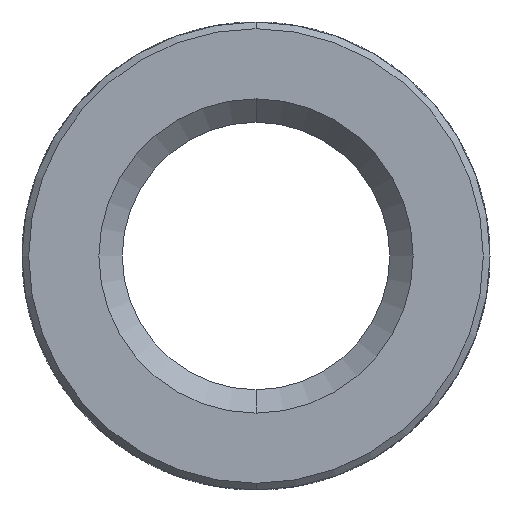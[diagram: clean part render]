
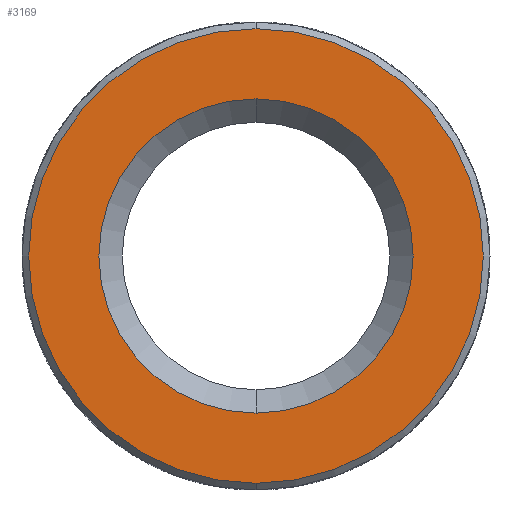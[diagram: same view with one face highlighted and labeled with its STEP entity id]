
A CAD part, front view. The second image highlights one B-rep face of the part: STEP entity #3169.
In plain terms, the highlighted planar face has unit normal (0, -1, 0).
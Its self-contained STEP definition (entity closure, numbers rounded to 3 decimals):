
#193 = ORIENTED_EDGE ( 'NONE', *, *, #3495, .T. ) ;
#303 = VERTEX_POINT ( 'NONE', #2643 ) ;
#377 = DIRECTION ( 'NONE',  ( 0., 0., -1. ) ) ;
#460 = CARTESIAN_POINT ( 'NONE',  ( 0., -5.2, 0. ) ) ;
#691 = AXIS2_PLACEMENT_3D ( 'NONE', #3554, #3890, #1470 ) ;
#695 = AXIS2_PLACEMENT_3D ( 'NONE', #2388, #1469, #885 ) ;
#700 = VERTEX_POINT ( 'NONE', #3232 ) ;
#791 = DIRECTION ( 'NONE',  ( 0., -1., 0. ) ) ;
#832 = ORIENTED_EDGE ( 'NONE', *, *, #3665, .T. ) ;
#885 = DIRECTION ( 'NONE',  ( 0., 0., -1. ) ) ;
#961 = FACE_OUTER_BOUND ( 'NONE', #1515, .T. ) ;
#997 = EDGE_LOOP ( 'NONE', ( #1908, #832 ) ) ;
#1059 = DIRECTION ( 'NONE',  ( 0., 0., -1. ) ) ;
#1072 = DIRECTION ( 'NONE',  ( 0., 0., -1. ) ) ;
#1259 = CIRCLE ( 'NONE', #691, 3.4 ) ;
#1469 = DIRECTION ( 'NONE',  ( 0., 1., 0. ) ) ;
#1470 = DIRECTION ( 'NONE',  ( 0., 0., -1. ) ) ;
#1515 = EDGE_LOOP ( 'NONE', ( #193, #2320 ) ) ;
#1625 = DIRECTION ( 'NONE',  ( 0., 1., 0. ) ) ;
#1908 = ORIENTED_EDGE ( 'NONE', *, *, #3401, .T. ) ;
#1949 = DIRECTION ( 'NONE',  ( 0., -1., 0. ) ) ;
#2196 = CIRCLE ( 'NONE', #2820, 2.35 ) ;
#2283 = CARTESIAN_POINT ( 'NONE',  ( 0., -5.2, 0. ) ) ;
#2315 = CARTESIAN_POINT ( 'NONE',  ( 0., -5.2, 3.4 ) ) ;
#2320 = ORIENTED_EDGE ( 'NONE', *, *, #2544, .T. ) ;
#2328 = AXIS2_PLACEMENT_3D ( 'NONE', #2283, #791, #1072 ) ;
#2363 = AXIS2_PLACEMENT_3D ( 'NONE', #3684, #1949, #377 ) ;
#2388 = CARTESIAN_POINT ( 'NONE',  ( 0., -5.2, 0. ) ) ;
#2544 = EDGE_CURVE ( 'NONE', #2813, #3609, #1259, .T. ) ;
#2643 = CARTESIAN_POINT ( 'NONE',  ( 0., -5.2, -2.35 ) ) ;
#2813 = VERTEX_POINT ( 'NONE', #2972 ) ;
#2820 = AXIS2_PLACEMENT_3D ( 'NONE', #460, #1625, #1059 ) ;
#2823 = PLANE ( 'NONE',  #2363 ) ;
#2853 = FACE_BOUND ( 'NONE', #997, .T. ) ;
#2972 = CARTESIAN_POINT ( 'NONE',  ( 0., -5.2, -3.4 ) ) ;
#3169 = ADVANCED_FACE ( 'NONE', ( #961, #2853 ), #2823, .T. ) ;
#3180 = CIRCLE ( 'NONE', #2328, 3.4 ) ;
#3232 = CARTESIAN_POINT ( 'NONE',  ( 0., -5.2, 2.35 ) ) ;
#3401 = EDGE_CURVE ( 'NONE', #303, #700, #2196, .T. ) ;
#3495 = EDGE_CURVE ( 'NONE', #3609, #2813, #3180, .T. ) ;
#3554 = CARTESIAN_POINT ( 'NONE',  ( 0., -5.2, 0. ) ) ;
#3609 = VERTEX_POINT ( 'NONE', #2315 ) ;
#3665 = EDGE_CURVE ( 'NONE', #700, #303, #3728, .T. ) ;
#3684 = CARTESIAN_POINT ( 'NONE',  ( 0., -5.2, 3.5 ) ) ;
#3728 = CIRCLE ( 'NONE', #695, 2.35 ) ;
#3890 = DIRECTION ( 'NONE',  ( 0., -1., 0. ) ) ;
